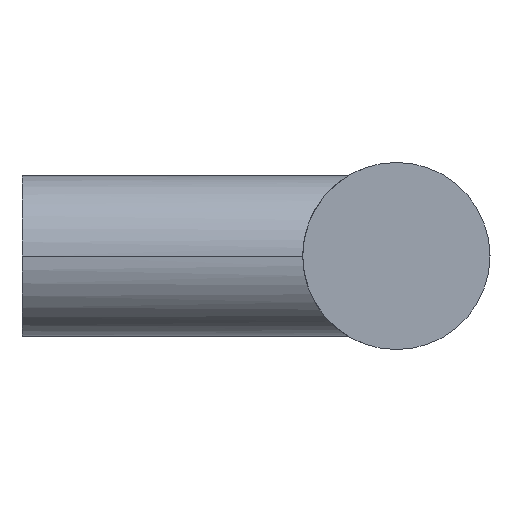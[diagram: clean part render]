
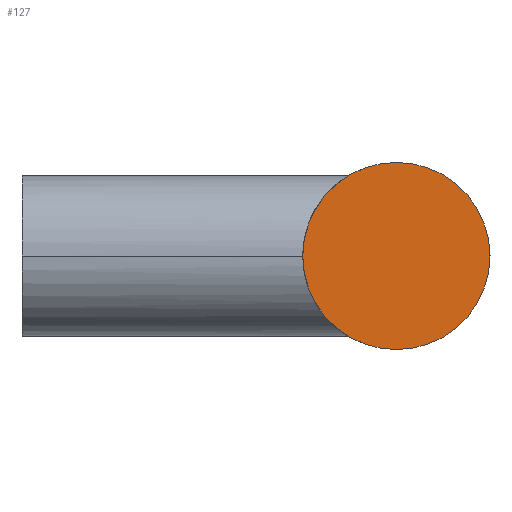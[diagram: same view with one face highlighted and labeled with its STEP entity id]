
A CAD part, left-side view. The second image highlights one B-rep face of the part: STEP entity #127.
In plain terms, the highlighted planar face has unit normal (-1, 0, 0).
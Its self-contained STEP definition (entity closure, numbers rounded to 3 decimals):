
#127 = ADVANCED_FACE( '', ( #289 ), #290, .F. );
#161 = EDGE_CURVE( '', #217, #223, #330, .T. );
#177 = EDGE_CURVE( '', #223, #217, #348, .T. );
#217 = VERTEX_POINT( '', #394 );
#223 = VERTEX_POINT( '', #400 );
#289 = FACE_OUTER_BOUND( '', #552, .T. );
#290 = PLANE( '', #553 );
#330 = CIRCLE( '', #600, 7. );
#348 = CIRCLE( '', #625, 7. );
#394 = CARTESIAN_POINT( '', ( -30., -28., 7. ) );
#400 = CARTESIAN_POINT( '', ( -30., -28., -7. ) );
#552 = EDGE_LOOP( '', ( #793, #794 ) );
#553 = AXIS2_PLACEMENT_3D( '', #795, #796, #797 );
#600 = AXIS2_PLACEMENT_3D( '', #848, #849, #850 );
#625 = AXIS2_PLACEMENT_3D( '', #875, #876, #877 );
#793 = ORIENTED_EDGE( '', *, *, #177, .F. );
#794 = ORIENTED_EDGE( '', *, *, #161, .F. );
#795 = CARTESIAN_POINT( '', ( -30., 0., 0. ) );
#796 = DIRECTION( '', ( 1., 0., 0. ) );
#797 = DIRECTION( '', ( 0., 0., -1. ) );
#848 = CARTESIAN_POINT( '', ( -30., -28., 0. ) );
#849 = DIRECTION( '', ( 1., 0., 0. ) );
#850 = DIRECTION( '', ( 0., 0., -1. ) );
#875 = CARTESIAN_POINT( '', ( -30., -28., 0. ) );
#876 = DIRECTION( '', ( 1., 0., 0. ) );
#877 = DIRECTION( '', ( 0., 0., -1. ) );
